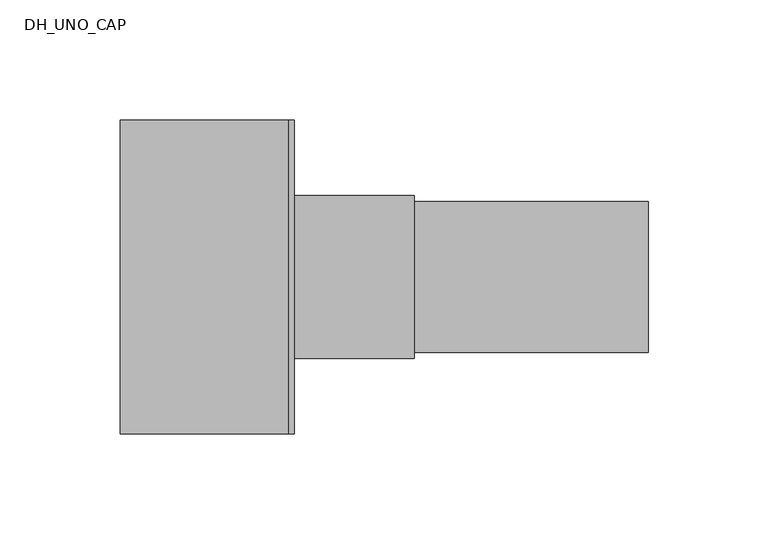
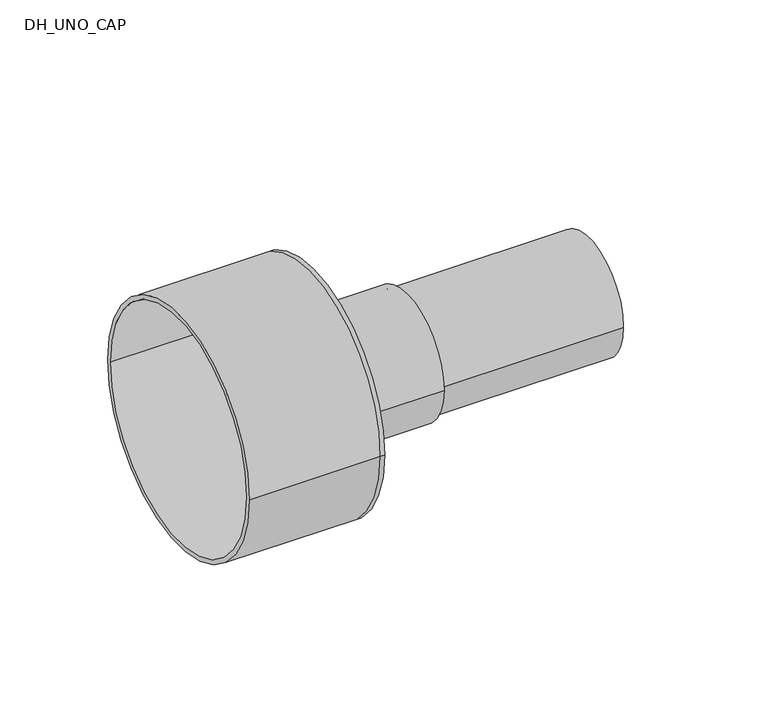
"""IFC4 building model written with IfcOpenShell, lengths in millimetres: pipe fitting geometry, DH_UNO_CAP : RAUTHERMEX UNO 7.4 DW - Rubber Cap."""

from ifc_helpers import new_model, si_unit, point, frame, origin, origin_2d, place, context, project, spatial, polyline, circle_curve, trimmed, segment, composite_curve, outline, extrude, source, transform, mapped, element, save
from ifc_brep_helpers import plane_surface, cylinder_surface, revolved_surface, advanced_brep


def dh_uno_cap_88088488(model_context):
    return source(origin(), model_context, "Body", "SolidModel", [
        extrude(outline(composite_curve([segment(trimmed(circle_curve(origin_2d(), 31.5), [point((-31.5, 0.0))], [point((31.5, 0.0))], False, "CARTESIAN"), True, "CONTINUOUS"), segment(trimmed(circle_curve(origin_2d(), 31.5), [point((31.5, 0.0))], [point((-31.5, 0.0))], False, "CARTESIAN"), True, "CONTINUOUS")], self_intersect=False), holes=[composite_curve([segment(trimmed(circle_curve(origin_2d(), 22.9), [point((-22.9, 0.0))], [point((22.9, 0.0))], True, "CARTESIAN"), True, "CONTINUOUS"), segment(trimmed(circle_curve(origin_2d(), 22.9), [point((22.9, 0.0))], [point((-22.9, 0.0))], True, "CARTESIAN"), True, "CONTINUOUS")], self_intersect=False)]), frame((0.0, 0.0, 0.0), z_axis=(1.0, 0.0, 0.0), x_axis=(0.0, 1.0, 0.0)), (0.0, 0.0, 1.0), 150.0),
        advanced_brep(
        [(-70.0, -65.5, 0.0), (-70.0, 65.5, 0.0), (-70.0, -63.0, 0.0), (-70.0, 63.0, 0.0), (0.0, -63.0, 0.0), (0.0, 63.0, 0.0), (0.0, -65.5, 0.0), (0.0, 65.5, 0.0), (0.0, 31.5, 0.0), (0.0, -31.5, 0.0), (2.5, -65.5, 0.0), (2.5, 65.5, 0.0), (2.5, -31.5, 0.0), (2.5, 31.5, 0.0)],
        [
            (0, 1, circle_curve(frame((-70.0, 0.0, 0.0), z_axis=(-1.0, 0.0, 0.0), x_axis=(0.0, 1.0, 0.0)), 65.5)),
            (1, 0, circle_curve(frame((-70.0, 0.0, 0.0), z_axis=(-1.0, 0.0, 0.0), x_axis=(0.0, 1.0, 0.0)), 65.5)),
            (2, 3, circle_curve(frame((-70.0, 0.0, 0.0), z_axis=(1.0, 0.0, 0.0), x_axis=(0.0, 1.0, 0.0)), 63.0)),
            (3, 2, circle_curve(frame((-70.0, 0.0, 0.0), z_axis=(1.0, 0.0, 0.0), x_axis=(0.0, 1.0, 0.0)), 63.0)),
            (2, 4),
            (4, 5, circle_curve(frame((0.0, 0.0, 0.0), z_axis=(1.0, 0.0, 0.0), x_axis=(0.0, 1.0, 0.0)), 63.0)),
            (5, 3),
            (5, 4, circle_curve(frame((0.0, 0.0, 0.0), z_axis=(1.0, 0.0, 0.0), x_axis=(0.0, 1.0, 0.0)), 63.0)),
            (0, 6),
            (6, 7, circle_curve(frame((0.0, 0.0, 0.0), z_axis=(-1.0, 0.0, 0.0), x_axis=(0.0, 1.0, 0.0)), 65.5)),
            (7, 1),
            (7, 6, circle_curve(frame((0.0, 0.0, 0.0), z_axis=(-1.0, 0.0, 0.0), x_axis=(0.0, 1.0, 0.0)), 65.5)),
            (8, 9, circle_curve(frame((0.0, 0.0, 0.0), z_axis=(1.0, 0.0, 0.0), x_axis=(0.0, 1.0, 0.0)), 31.5)),
            (9, 8, circle_curve(frame((0.0, 0.0, 0.0), z_axis=(1.0, 0.0, 0.0), x_axis=(0.0, 1.0, 0.0)), 31.5)),
            (10, 11, circle_curve(frame((2.5, 0.0, 0.0), z_axis=(1.0, 0.0, 0.0), x_axis=(0.0, 1.0, 0.0)), 65.5)),
            (11, 10, circle_curve(frame((2.5, 0.0, 0.0), z_axis=(1.0, 0.0, 0.0), x_axis=(0.0, 1.0, 0.0)), 65.5)),
            (12, 13, circle_curve(frame((2.5, 0.0, 0.0), z_axis=(-1.0, 0.0, 0.0), x_axis=(0.0, 1.0, 0.0)), 31.5)),
            (13, 12, circle_curve(frame((2.5, 0.0, 0.0), z_axis=(-1.0, 0.0, 0.0), x_axis=(0.0, 1.0, 0.0)), 31.5)),
            (11, 7),
            (6, 10),
            (8, 13),
            (12, 9),
        ],
        [
            plane_surface(frame((-70.0, 0.0, 0.0), z_axis=(-1.0, 0.0, 0.0), x_axis=(0.0, 0.0, 1.0))),
            revolved_surface(polyline([(0.0, 63.0, 0.0), (-70.0, 63.0, 0.0)]), (-70.0, 0.0, 0.0), (1.0, 0.0, 0.0)),
            cylinder_surface(frame((-70.0, 0.0, 0.0), z_axis=(-1.0, 0.0, 0.0), x_axis=(0.0, 1.0, 0.0)), 65.5),
            plane_surface(frame((0.0, 0.0, 0.0), z_axis=(-1.0, 0.0, 0.0), x_axis=(0.0, 0.0, 1.0))),
            plane_surface(frame((2.5, 0.0, 0.0), z_axis=(1.0, 0.0, 0.0), x_axis=(0.0, 0.0, 1.0))),
            cylinder_surface(frame((0.0, 0.0, 0.0), z_axis=(-1.0, 0.0, 0.0), x_axis=(0.0, 1.0, 0.0)), 65.5),
            revolved_surface(polyline([(0.0, 31.5, 0.0), (2.5, 31.5, 0.0)]), (0.0, 0.0, 0.0), (-1.0, 0.0, 0.0)),
        ],
        [
            (0, [[1, 2], [3, 4]]),
            (1, [[-3, 5, 6, 7]]),
            (1, [[-4, -7, 8, -5]]),
            (2, [[-1, 9, 10, 11]]),
            (2, [[-2, -11, 12, -9]]),
            (3, [[-6, -8], [13, 14]]),
            (4, [[15, 16], [17, 18]]),
            (5, [[-16, 19, -10, 20]]),
            (5, [[-15, -20, -12, -19]]),
            (6, [[21, -17, 22, -13]]),
            (6, [[-21, -14, -22, -18]]),
        ],
    ),
        extrude(outline(composite_curve([segment(trimmed(circle_curve(origin_2d(), 34.0), [point((-34.0, 0.0))], [point((34.0, 0.0))], False, "CARTESIAN"), True, "CONTINUOUS"), segment(trimmed(circle_curve(origin_2d(), 34.0), [point((34.0, 0.0))], [point((-34.0, 0.0))], False, "CARTESIAN"), True, "CONTINUOUS")], self_intersect=False), holes=[composite_curve([segment(trimmed(circle_curve(origin_2d(), 31.5), [point((-31.5, 0.0))], [point((31.5, 0.0))], True, "CARTESIAN"), True, "CONTINUOUS"), segment(trimmed(circle_curve(origin_2d(), 31.5), [point((31.5, 0.0))], [point((-31.5, 0.0))], True, "CARTESIAN"), True, "CONTINUOUS")], self_intersect=False)]), frame((2.5, 0.0, 0.0), z_axis=(1.0, 0.0, 0.0), x_axis=(0.0, 1.0, 0.0)), (0.0, 0.0, 1.0), 50.0),
    ])


if __name__ == "__main__":
    model = new_model("IFC4")
    model_context = context("Model", 3, world=origin())
    ifc_project = project(units=[si_unit("LENGTHUNIT", "METRE", prefix="MILLI")], contexts=[model_context])
    site = spatial("IfcSite", under=ifc_project)
    building = spatial("IfcBuilding", under=site)
    placement = place(None, origin())
    dh_uno_cap_shape = dh_uno_cap_88088488(model_context)
    element("IfcPipeFitting", 1, ObjectType="DH_UNO_CAP : RAUTHERMEX UNO 7.4 DW - Rubber Cap", at=placement, inside=building, context=model_context, shape_type="MappedRepresentation", body=[
        mapped(dh_uno_cap_shape, transform((0.0, 0.0, 0.0), x_axis=(1.0, 0.0, 0.0), y_axis=(0.0, 1.0, 0.0), z_axis=(0.0, 0.0, 1.0))),
    ])
    save(model, "model.ifc")
